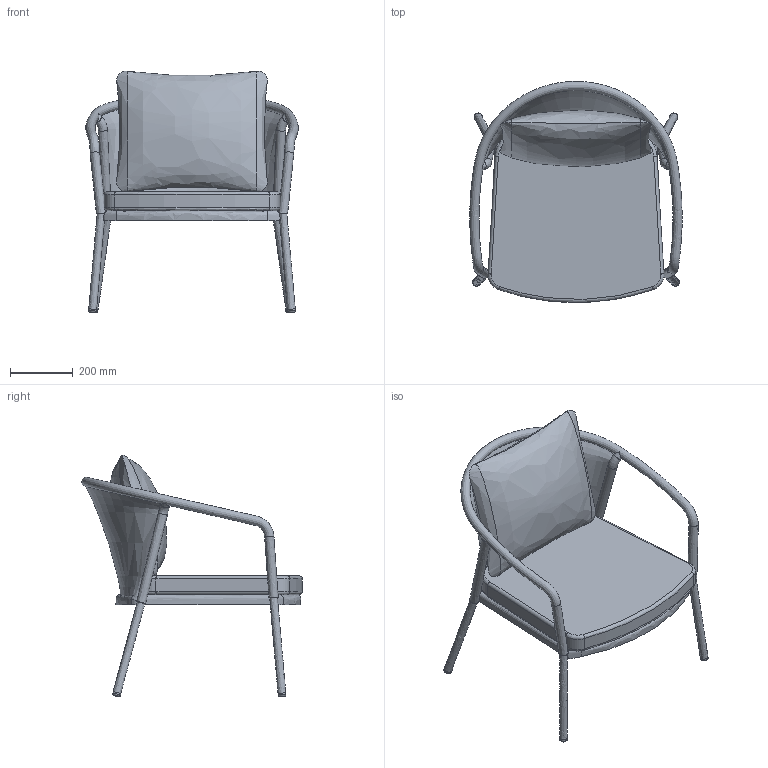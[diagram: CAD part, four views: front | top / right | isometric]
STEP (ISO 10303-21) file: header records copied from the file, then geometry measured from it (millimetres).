
FILE_DESCRIPTION(/* description */ (''),/* implementation_level */ '2;1');
FILE_NAME(/* name */ 'kinoshita_abord_g109c-1',/* time_stamp */ '2025-08-28T17:25:39+09:00',/* author */ (''),/* organization */ (''),/* preprocessor_version */ 'ST-DEVELOPER v16.5',/* originating_system */ '',/* authorisation */ '');
FILE_SCHEMA (('AUTOMOTIVE_DESIGN'));
Length unit declared in the file: millimetre
Products named in the file (1): Document
Bounding box: 677.01 x 704.4 x 770.54 mm (x, y, z)
Volume: 36774969.5 mm3; surface area: 2320282.9 mm2
Topology: 3 solids, 6 shells, 75 faces, 172 edges, 98 vertices
Faces by surface type: bspline 62, plane 13
Entity records: 11542 total; most frequent: CARTESIAN_POINT 10595, ORIENTED_EDGE 300, EDGE_CURVE 160, VERTEX_POINT 98, EDGE_LOOP 79, ADVANCED_FACE 75, FACE_OUTER_BOUND 75, B_SPLINE_CURVE_WITH_KNOTS 56
